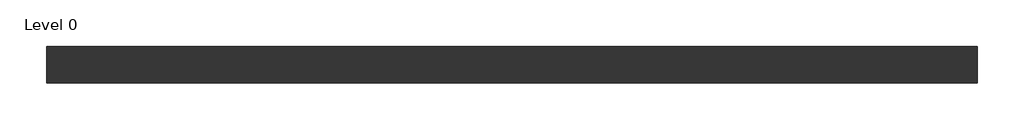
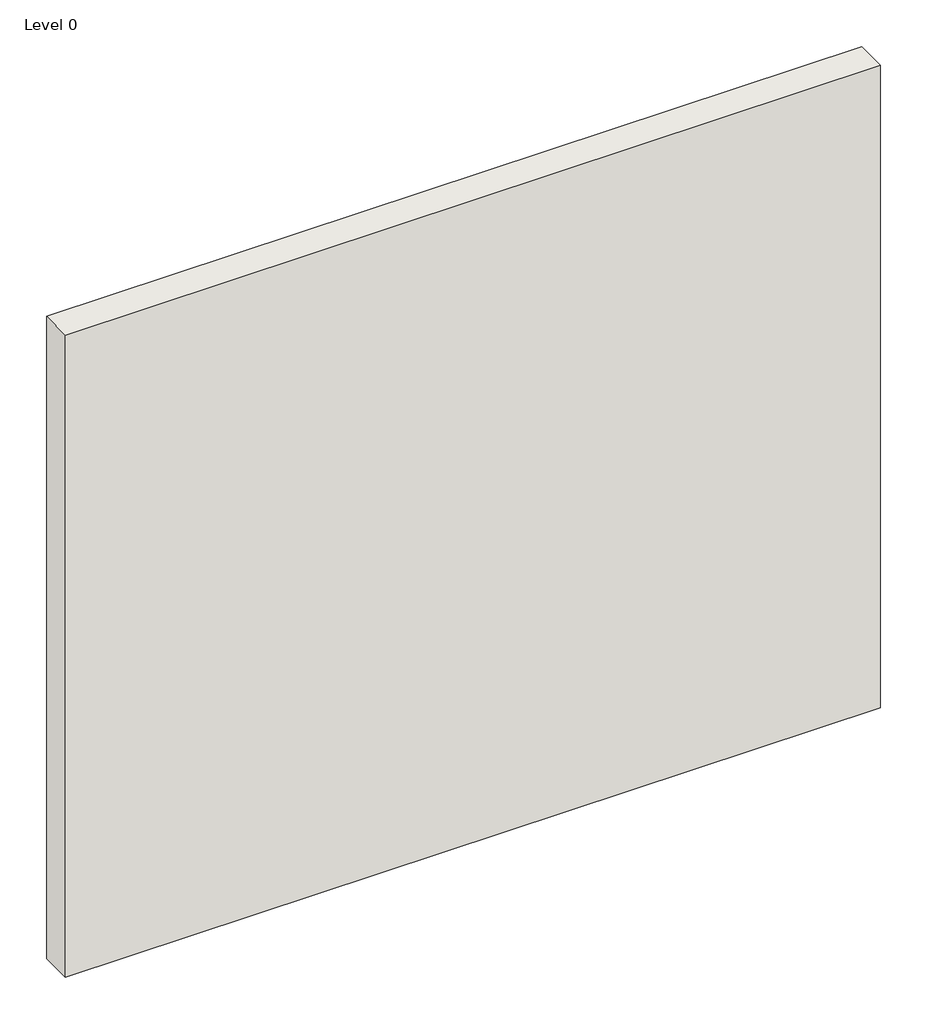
# One storey: 1 wall.
"""IFC4 building model written with IfcOpenShell, lengths in millimetres."""

from ifc_helpers import new_model, si_unit, origin, origin_with_axes, place, context, project, spatial, polyline, outline, extrude, element, save

model = new_model("IFC4")

# Units and contexts
model_context = context("Model", 3, world=origin())
ifc_project = project(units=[si_unit("LENGTHUNIT", "METRE", prefix="MILLI")], contexts=[model_context])

# Site, building, storey
site = spatial("IfcSite", under=ifc_project)
building = spatial("IfcBuilding", under=site)
storey = spatial("IfcBuildingStorey", under=building, Name="Level 0", Elevation=0.0)

# Wall
placement = place(None, origin())
element("IfcWall", 1, ObjectType="A306014 - ShaftWall", at=placement, inside=storey, context=model_context, shape_type="SweptSolid", body=[
    extrude(outline(polyline([(2116.0807354, 534.2205641), (-883.9192646, 534.2205641), (-883.9192646, 653.2205641), (2116.0807354, 653.2205641), (2116.0807354, 534.2205641)])), origin_with_axes(), (0.0, 0.0, 1.0), 2500.0),
])

save(model, "model.ifc")
